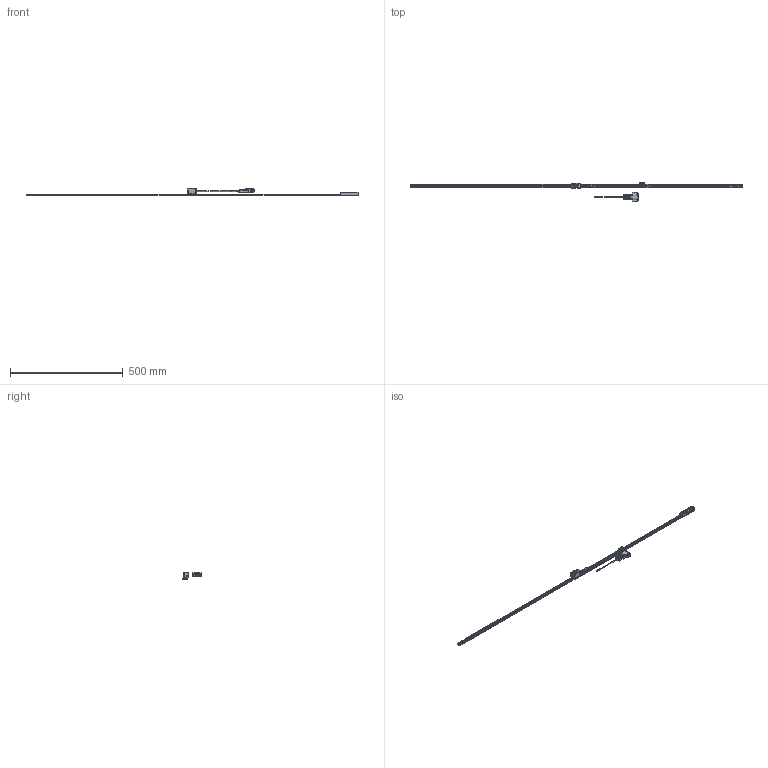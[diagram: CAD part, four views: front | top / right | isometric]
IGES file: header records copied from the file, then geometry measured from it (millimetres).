
Start section: Elysium IGES Interface
Global section: file name: 90H\\Utsu119s\kiyo_cad\data\3D\ABS ST1300\HP掲載用_201803\ST1300-Dタイプ\PKG\ST1300-1300D.igs; native system: Creo Elements/Direct Modeling 18.1B  29-Sep-2012; preprocessor: Creo Element/Direct IGES_3D V2.2; author: Unknown; organization: Unknown; date: 20180301.124709; units: millimetre
Bounding box: 1473 x 88.3 x 30.1 mm (x, y, z)
Volume: 144548.6 mm3; surface area: 99422.1 mm2
Topology: 3 solids, 10 shells, 3779 faces, 10343 edges, 6736 vertices
Faces by surface type: bspline 3779
